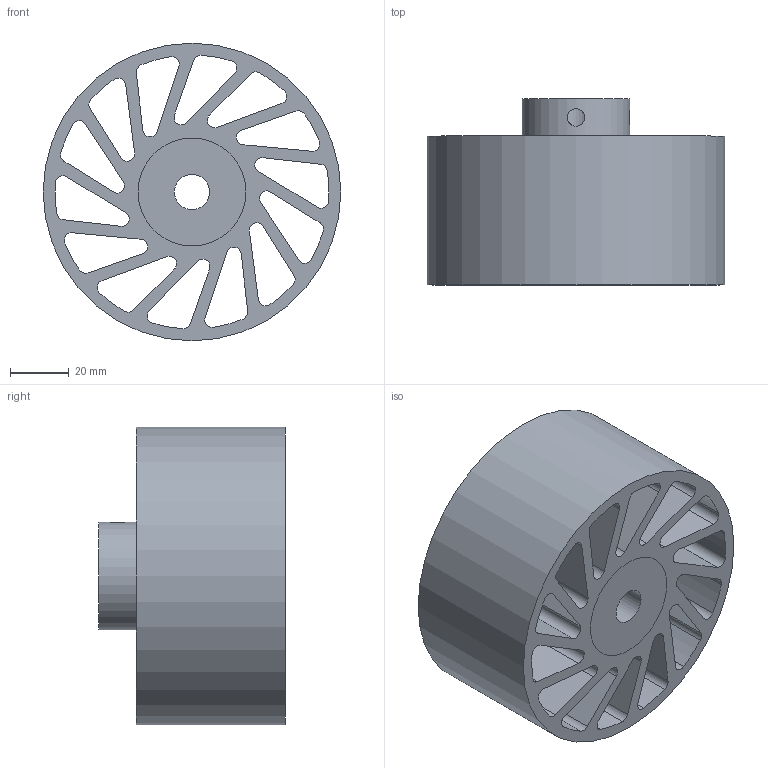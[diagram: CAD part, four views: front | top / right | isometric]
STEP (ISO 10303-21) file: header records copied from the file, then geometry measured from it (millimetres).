
FILE_DESCRIPTION(/* description */ (''),/* implementation_level */ '2;1');
FILE_NAME(/* name */ 'NCWM-400-XXX-YYY.stp',/* time_stamp */ '2023-02-02T16:26:31-06:00',/* author */ ('AG'),/* organization */ ('Meridian Laboratory'),/* preprocessor_version */ 'ST-DEVELOPER v18.1',/* originating_system */ 'Autodesk Inventor 2022',/* authorisation */ '');
FILE_SCHEMA (('AUTOMOTIVE_DESIGN { 1 0 10303 214 3 1 1 }'));
Length unit declared in the file: millimetre
Products named in the file (1): NCWM-340
Bounding box: 101.6 x 63.5 x 101.6 mm (x, y, z)
Volume: 236543.5 mm3; surface area: 90267.9 mm2
Topology: 2 solids, 2 shells, 94 faces, 276 edges, 186 vertices
Faces by surface type: cylinder 62, plane 32
Full cylindrical faces by diameter (mm): 6 x2, 12.025 x1, 36.83 x2, 101.6 x1
Entity records: 3528 total; most frequent: CARTESIAN_POINT 697, DIRECTION 576, ORIENTED_EDGE 552, EDGE_CURVE 276, AXIS2_PLACEMENT_3D 215, VERTEX_POINT 186, LINE 146, VECTOR 146
